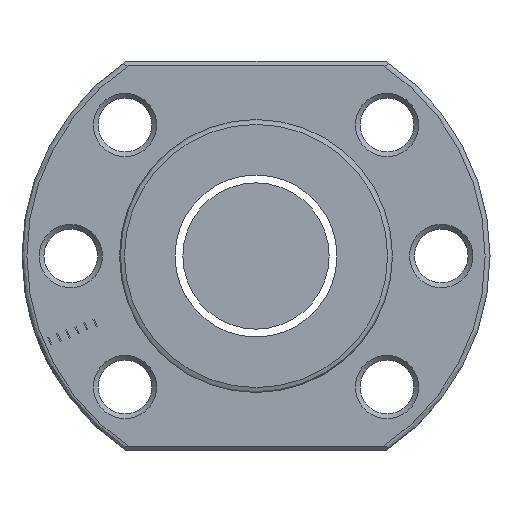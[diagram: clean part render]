
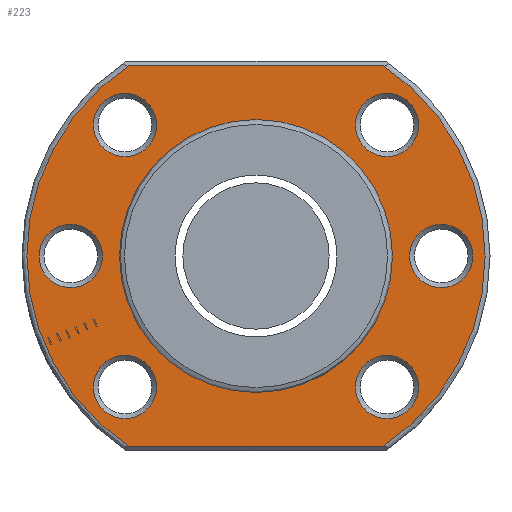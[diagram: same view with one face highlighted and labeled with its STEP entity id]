
A CAD part, left-side view. The second image highlights one B-rep face of the part: STEP entity #223.
In plain terms, the highlighted planar face has unit normal (-1, 0, 0).
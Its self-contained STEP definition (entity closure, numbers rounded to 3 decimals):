
#13 = CARTESIAN_POINT ( 'NONE',  ( -45., 24., 0. ) ) ;
#40 = DIRECTION ( 'NONE',  ( 0., 0., 1. ) ) ;
#57 = ORIENTED_EDGE ( 'NONE', *, *, #2463, .T. ) ;
#62 = PLANE ( 'NONE',  #2386 ) ;
#78 = DIRECTION ( 'NONE',  ( 1., 0., 0. ) ) ;
#84 = CARTESIAN_POINT ( 'NONE',  ( -45., 19., 0. ) ) ;
#146 = EDGE_LOOP ( 'NONE', ( #641 ) ) ;
#206 = VECTOR ( 'NONE', #2816, 1000. ) ;
#223 = ADVANCED_FACE ( 'NONE', ( #1747, #966, #533, #293, #267, #1237, #2906, #728 ), #62, .T. ) ;
#249 = CIRCLE ( 'NONE', #2689, 3.25 ) ;
#267 = FACE_BOUND ( 'NONE', #1419, .T. ) ;
#269 = DIRECTION ( 'NONE',  ( 0., 0., -1. ) ) ;
#293 = FACE_BOUND ( 'NONE', #2836, .T. ) ;
#294 = CARTESIAN_POINT ( 'NONE',  ( -45., 13.435, -13.435 ) ) ;
#359 = CARTESIAN_POINT ( 'NONE',  ( -45., -13.115, -19.5 ) ) ;
#370 = VERTEX_POINT ( 'NONE', #359 ) ;
#404 = AXIS2_PLACEMENT_3D ( 'NONE', #1815, #623, #2784 ) ;
#426 = CARTESIAN_POINT ( 'NONE',  ( -45., 24., -19.5 ) ) ;
#441 = CARTESIAN_POINT ( 'NONE',  ( -45., 0., -14. ) ) ;
#463 = VECTOR ( 'NONE', #1081, 1000. ) ;
#464 = CIRCLE ( 'NONE', #2649, 3.25 ) ;
#488 = CARTESIAN_POINT ( 'NONE',  ( -45., 13.115, 19.5 ) ) ;
#509 = CIRCLE ( 'NONE', #1934, 3.25 ) ;
#520 = DIRECTION ( 'NONE',  ( 0., 0., 1. ) ) ;
#529 = DIRECTION ( 'NONE',  ( 0., 0., 1. ) ) ;
#533 = FACE_BOUND ( 'NONE', #1896, .T. ) ;
#551 = AXIS2_PLACEMENT_3D ( 'NONE', #84, #1305, #2755 ) ;
#611 = CIRCLE ( 'NONE', #1673, 3.25 ) ;
#621 = ORIENTED_EDGE ( 'NONE', *, *, #2710, .T. ) ;
#623 = DIRECTION ( 'NONE',  ( -1., 0., 0. ) ) ;
#625 = EDGE_LOOP ( 'NONE', ( #2870 ) ) ;
#641 = ORIENTED_EDGE ( 'NONE', *, *, #1257, .T. ) ;
#694 = EDGE_CURVE ( 'NONE', #2385, #2385, #611, .T. ) ;
#697 = CARTESIAN_POINT ( 'NONE',  ( -45., 19., 3.25 ) ) ;
#714 = CIRCLE ( 'NONE', #551, 3.25 ) ;
#728 = FACE_OUTER_BOUND ( 'NONE', #976, .T. ) ;
#753 = CARTESIAN_POINT ( 'NONE',  ( -45., -19., 0. ) ) ;
#758 = AXIS2_PLACEMENT_3D ( 'NONE', #1682, #2656, #40 ) ;
#876 = LINE ( 'NONE', #3053, #206 ) ;
#923 = EDGE_CURVE ( 'NONE', #980, #980, #2394, .T. ) ;
#947 = EDGE_LOOP ( 'NONE', ( #1096 ) ) ;
#966 = FACE_BOUND ( 'NONE', #146, .T. ) ;
#976 = EDGE_LOOP ( 'NONE', ( #2364, #2041, #2963, #621 ) ) ;
#980 = VERTEX_POINT ( 'NONE', #441 ) ;
#1028 = DIRECTION ( 'NONE',  ( 0., 0., 1. ) ) ;
#1031 = CARTESIAN_POINT ( 'NONE',  ( -45., 0., 0. ) ) ;
#1044 = DIRECTION ( 'NONE',  ( 0., 0., 1. ) ) ;
#1075 = EDGE_CURVE ( 'NONE', #2625, #2625, #464, .T. ) ;
#1081 = DIRECTION ( 'NONE',  ( 0., -1., 0. ) ) ;
#1096 = ORIENTED_EDGE ( 'NONE', *, *, #2362, .T. ) ;
#1124 = CARTESIAN_POINT ( 'NONE',  ( -45., -13.115, 19.5 ) ) ;
#1176 = CARTESIAN_POINT ( 'NONE',  ( -45., 13.435, 16.685 ) ) ;
#1194 = VERTEX_POINT ( 'NONE', #1124 ) ;
#1219 = CARTESIAN_POINT ( 'NONE',  ( -45., 13.435, -10.185 ) ) ;
#1236 = CARTESIAN_POINT ( 'NONE',  ( -45., -13.435, 16.685 ) ) ;
#1237 = FACE_BOUND ( 'NONE', #625, .T. ) ;
#1250 = EDGE_CURVE ( 'NONE', #370, #1194, #2130, .T. ) ;
#1257 = EDGE_CURVE ( 'NONE', #2919, #2919, #1315, .T. ) ;
#1279 = CARTESIAN_POINT ( 'NONE',  ( -45., 13.435, 13.435 ) ) ;
#1305 = DIRECTION ( 'NONE',  ( 1., 0., 0. ) ) ;
#1315 = CIRCLE ( 'NONE', #2987, 3.25 ) ;
#1419 = EDGE_LOOP ( 'NONE', ( #57 ) ) ;
#1444 = ORIENTED_EDGE ( 'NONE', *, *, #1570, .T. ) ;
#1478 = VERTEX_POINT ( 'NONE', #1176 ) ;
#1487 = DIRECTION ( 'NONE',  ( 1., 0., 0. ) ) ;
#1521 = CARTESIAN_POINT ( 'NONE',  ( -45., 13.115, -19.5 ) ) ;
#1570 = EDGE_CURVE ( 'NONE', #1478, #1478, #249, .T. ) ;
#1641 = ORIENTED_EDGE ( 'NONE', *, *, #923, .T. ) ;
#1650 = VERTEX_POINT ( 'NONE', #488 ) ;
#1673 = AXIS2_PLACEMENT_3D ( 'NONE', #2468, #1487, #1981 ) ;
#1682 = CARTESIAN_POINT ( 'NONE',  ( -45., 0., 0. ) ) ;
#1700 = DIRECTION ( 'NONE',  ( -1., 0., 0. ) ) ;
#1728 = DIRECTION ( 'NONE',  ( 1., 0., 0. ) ) ;
#1729 = CIRCLE ( 'NONE', #404, 23.5 ) ;
#1747 = FACE_BOUND ( 'NONE', #947, .T. ) ;
#1815 = CARTESIAN_POINT ( 'NONE',  ( -45., 0., 0. ) ) ;
#1896 = EDGE_LOOP ( 'NONE', ( #2159 ) ) ;
#1934 = AXIS2_PLACEMENT_3D ( 'NONE', #2934, #2953, #1028 ) ;
#1981 = DIRECTION ( 'NONE',  ( 0., 0., 1. ) ) ;
#2020 = LINE ( 'NONE', #426, #463 ) ;
#2041 = ORIENTED_EDGE ( 'NONE', *, *, #3041, .T. ) ;
#2130 = CIRCLE ( 'NONE', #758, 23.5 ) ;
#2159 = ORIENTED_EDGE ( 'NONE', *, *, #694, .T. ) ;
#2217 = VERTEX_POINT ( 'NONE', #1521 ) ;
#2252 = DIRECTION ( 'NONE',  ( 1., 0., 0. ) ) ;
#2362 = EDGE_CURVE ( 'NONE', #2874, #2874, #509, .T. ) ;
#2364 = ORIENTED_EDGE ( 'NONE', *, *, #2622, .T. ) ;
#2385 = VERTEX_POINT ( 'NONE', #1236 ) ;
#2386 = AXIS2_PLACEMENT_3D ( 'NONE', #13, #1700, #520 ) ;
#2394 = CIRCLE ( 'NONE', #2530, 14. ) ;
#2428 = DIRECTION ( 'NONE',  ( 0., 0., 1. ) ) ;
#2448 = CARTESIAN_POINT ( 'NONE',  ( -45., -13.435, -10.185 ) ) ;
#2463 = EDGE_CURVE ( 'NONE', #2671, #2671, #714, .T. ) ;
#2468 = CARTESIAN_POINT ( 'NONE',  ( -45., -13.435, 13.435 ) ) ;
#2530 = AXIS2_PLACEMENT_3D ( 'NONE', #1031, #2748, #269 ) ;
#2622 = EDGE_CURVE ( 'NONE', #1650, #2217, #1729, .T. ) ;
#2625 = VERTEX_POINT ( 'NONE', #1219 ) ;
#2649 = AXIS2_PLACEMENT_3D ( 'NONE', #294, #78, #1044 ) ;
#2656 = DIRECTION ( 'NONE',  ( -1., 0., 0. ) ) ;
#2671 = VERTEX_POINT ( 'NONE', #697 ) ;
#2689 = AXIS2_PLACEMENT_3D ( 'NONE', #1279, #2252, #2428 ) ;
#2710 = EDGE_CURVE ( 'NONE', #1194, #1650, #876, .T. ) ;
#2748 = DIRECTION ( 'NONE',  ( 1., 0., 0. ) ) ;
#2755 = DIRECTION ( 'NONE',  ( 0., 0., 1. ) ) ;
#2757 = EDGE_LOOP ( 'NONE', ( #1641 ) ) ;
#2784 = DIRECTION ( 'NONE',  ( 0., 0., 1. ) ) ;
#2816 = DIRECTION ( 'NONE',  ( 0., 1., 0. ) ) ;
#2836 = EDGE_LOOP ( 'NONE', ( #1444 ) ) ;
#2870 = ORIENTED_EDGE ( 'NONE', *, *, #1075, .T. ) ;
#2874 = VERTEX_POINT ( 'NONE', #2448 ) ;
#2906 = FACE_BOUND ( 'NONE', #2757, .T. ) ;
#2919 = VERTEX_POINT ( 'NONE', #3109 ) ;
#2934 = CARTESIAN_POINT ( 'NONE',  ( -45., -13.435, -13.435 ) ) ;
#2953 = DIRECTION ( 'NONE',  ( 1., 0., 0. ) ) ;
#2963 = ORIENTED_EDGE ( 'NONE', *, *, #1250, .T. ) ;
#2987 = AXIS2_PLACEMENT_3D ( 'NONE', #753, #1728, #529 ) ;
#3041 = EDGE_CURVE ( 'NONE', #2217, #370, #2020, .T. ) ;
#3053 = CARTESIAN_POINT ( 'NONE',  ( -45., 24., 19.5 ) ) ;
#3109 = CARTESIAN_POINT ( 'NONE',  ( -45., -19., 3.25 ) ) ;
